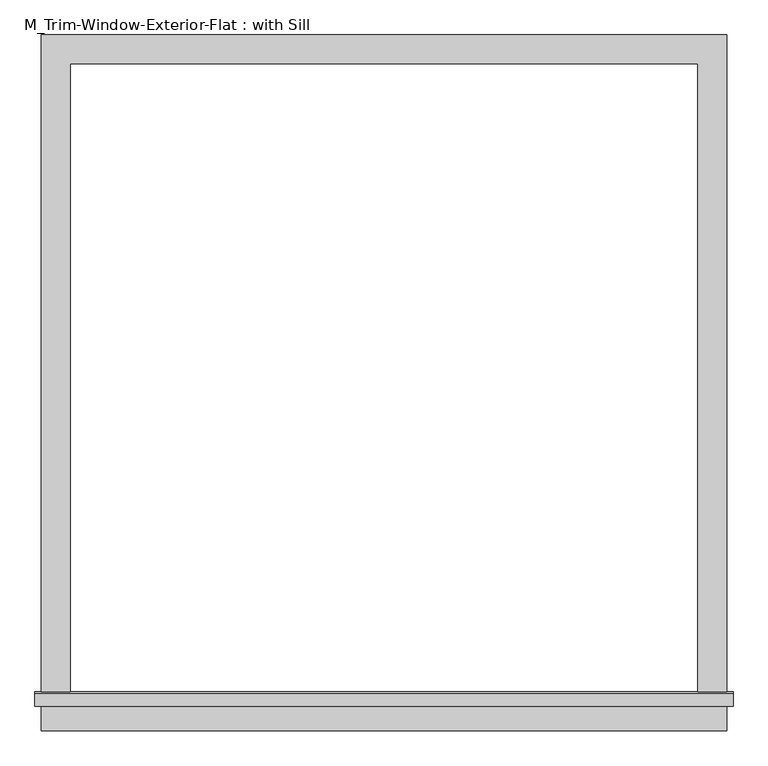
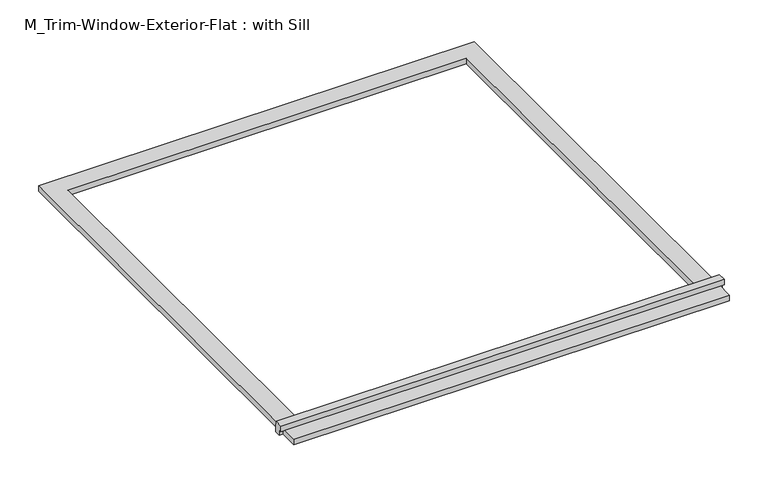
"""IFC4 building model written with IfcOpenShell, lengths in millimetres: proxy geometry, M_Trim-Window-Exterior-Flat : with Sill."""

from ifc_helpers import new_model, si_unit, frame, origin, origin_with_axes, place, context, project, spatial, polyline, outline, extrude, source, transform, mapped, element, save


def m_trim_window_exterior_flat_with_sill_355aabd8(model_context):
    return source(origin(), model_context, "Body", "SweptSolid", [
        extrude(outline(polyline([(710.0, -1320.4323709), (710.0, -1380.4323709), (-710.0, -1380.4323709), (-710.0, -1320.4323709), (710.0, -1320.4323709)])), origin_with_axes(), (0.0, 0.0, 1.0), 19.05),
        extrude(outline(polyline([(-1330.0, 38.1), (-1302.4580645, 38.1), (-1300.0, 19.05), (-1300.0, 0.0), (-1320.4323709, 0.0), (-1320.4323709, 19.05), (-1330.0, 19.05), (-1330.0, 38.1)])), frame((-722.7, 0.0, 0.0), z_axis=(1.0, 0.0, 0.0), x_axis=(0.0, 1.0, 0.0)), (0.0, 0.0, 1.0), 1445.4),
        extrude(outline(polyline([(-710.0, 60.0), (710.0, 60.0), (710.0, -1300.0), (650.0, -1300.0), (650.0, 0.0), (-650.0, 0.0), (-650.0, -1300.0), (-710.0, -1300.0), (-710.0, 60.0)])), origin_with_axes(), (0.0, 0.0, 1.0), 19.05),
    ])


if __name__ == "__main__":
    model = new_model("IFC4")
    model_context = context("Model", 3, world=origin())
    ifc_project = project(units=[si_unit("LENGTHUNIT", "METRE", prefix="MILLI")], contexts=[model_context])
    site = spatial("IfcSite", under=ifc_project)
    building = spatial("IfcBuilding", under=site)
    placement = place(None, origin())
    m_trim_window_exterior_flat_with_sill_shape = m_trim_window_exterior_flat_with_sill_355aabd8(model_context)
    element("IfcBuildingElementProxy", 1, Name="M_Trim-Window-Exterior-Flat : with Sill", ObjectType="M_Trim-Window-Exterior-Flat : with Sill", at=placement, inside=building, context=model_context, shape_type="MappedRepresentation", body=[
        mapped(m_trim_window_exterior_flat_with_sill_shape, transform((0.0, 0.0, 0.0), x_axis=(1.0, 0.0, 0.0), y_axis=(0.0, 1.0, 0.0), z_axis=(0.0, 0.0, 1.0))),
    ])
    save(model, "model.ifc")
